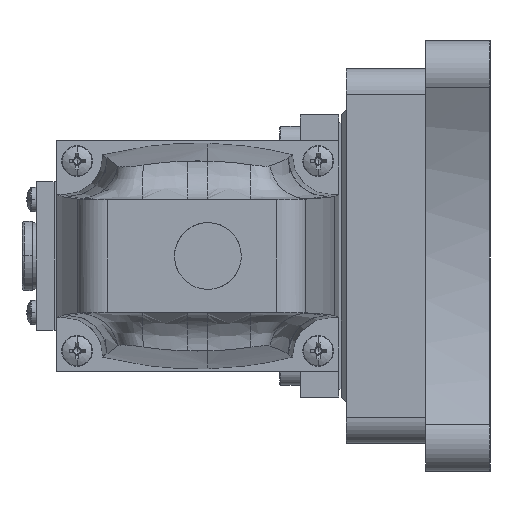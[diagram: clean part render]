
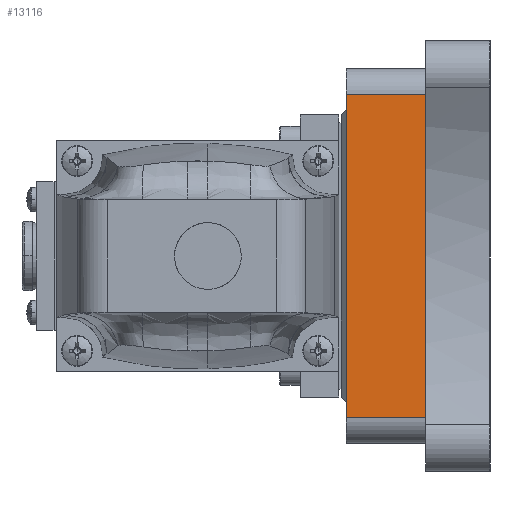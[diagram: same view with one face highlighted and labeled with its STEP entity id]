
A CAD part, left-side view. The second image highlights one B-rep face of the part: STEP entity #13116.
In plain terms, the highlighted planar face has unit normal (-1, 0, 0).
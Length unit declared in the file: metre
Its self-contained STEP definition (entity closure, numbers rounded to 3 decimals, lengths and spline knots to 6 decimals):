
#109 = VERTEX_POINT ( 'NONE', #7444 ) ;
#115 = VECTOR ( 'NONE', #377, 1. ) ;
#156 = VECTOR ( 'NONE', #1156, 1. ) ;
#163 = CARTESIAN_POINT ( 'NONE',  ( -0.094, -0.0175, -0.063 ) ) ;
#377 = DIRECTION ( 'NONE',  ( 0., -1., 0. ) ) ;
#605 = VERTEX_POINT ( 'NONE', #10907 ) ;
#1027 = CARTESIAN_POINT ( 'NONE',  ( -0.094, -0.002, 0. ) ) ;
#1156 = DIRECTION ( 'NONE',  ( 0., 0., -1. ) ) ;
#1414 = VECTOR ( 'NONE', #2996, 1. ) ;
#1805 = LINE ( 'NONE', #3290, #1414 ) ;
#2594 = CARTESIAN_POINT ( 'NONE',  ( -0.094, -0.033, 0. ) ) ;
#2996 = DIRECTION ( 'NONE',  ( 0., 1., 0. ) ) ;
#3290 = CARTESIAN_POINT ( 'NONE',  ( -0.094, -0.0175, 0.063 ) ) ;
#3404 = DIRECTION ( 'NONE',  ( 0., 0., -1. ) ) ;
#3424 = CARTESIAN_POINT ( 'NONE',  ( -0.094, -0.033, 0. ) ) ;
#3829 = ORIENTED_EDGE ( 'NONE', *, *, #9732, .T. ) ;
#4660 = EDGE_CURVE ( 'NONE', #15447, #8031, #1805, .T. ) ;
#5362 = ORIENTED_EDGE ( 'NONE', *, *, #5500, .F. ) ;
#5392 = CARTESIAN_POINT ( 'NONE',  ( -0.094, -0.033, 0.063 ) ) ;
#5426 = LINE ( 'NONE', #3424, #15005 ) ;
#5500 = EDGE_CURVE ( 'NONE', #15447, #13260, #8899, .T. ) ;
#5531 = ORIENTED_EDGE ( 'NONE', *, *, #5839, .F. ) ;
#5839 = EDGE_CURVE ( 'NONE', #13260, #605, #5426, .T. ) ;
#6702 = ORIENTED_EDGE ( 'NONE', *, *, #4660, .T. ) ;
#6895 = ORIENTED_EDGE ( 'NONE', *, *, #8370, .T. ) ;
#7444 = CARTESIAN_POINT ( 'NONE',  ( -0.094, -0.002, -0.063 ) ) ;
#8031 = VERTEX_POINT ( 'NONE', #9861 ) ;
#8370 = EDGE_CURVE ( 'NONE', #8031, #109, #9983, .T. ) ;
#8797 = CARTESIAN_POINT ( 'NONE',  ( -0.094, -0.033, 0. ) ) ;
#8856 = DIRECTION ( 'NONE',  ( 0., 0., -1. ) ) ;
#8899 = LINE ( 'NONE', #8797, #11414 ) ;
#9560 = LINE ( 'NONE', #163, #115 ) ;
#9732 = EDGE_CURVE ( 'NONE', #109, #605, #9560, .T. ) ;
#9861 = CARTESIAN_POINT ( 'NONE',  ( -0.094, -0.002, 0.063 ) ) ;
#9983 = LINE ( 'NONE', #1027, #156 ) ;
#10907 = CARTESIAN_POINT ( 'NONE',  ( -0.094, -0.033, -0.063 ) ) ;
#11038 = PLANE ( 'NONE',  #13026 ) ;
#11414 = VECTOR ( 'NONE', #8856, 1. ) ;
#11764 = CARTESIAN_POINT ( 'NONE',  ( -0.094, -0.033, 0.063 ) ) ;
#12118 = DIRECTION ( 'NONE',  ( 1., 0., 0. ) ) ;
#12264 = DIRECTION ( 'NONE',  ( 0., 0., -1. ) ) ;
#12699 = FACE_OUTER_BOUND ( 'NONE', #15710, .T. ) ;
#13026 = AXIS2_PLACEMENT_3D ( 'NONE', #11764, #12118, #12264 ) ;
#13116 = ADVANCED_FACE ( 'NONE', ( #12699 ), #11038, .F. ) ;
#13260 = VERTEX_POINT ( 'NONE', #2594 ) ;
#15005 = VECTOR ( 'NONE', #3404, 1. ) ;
#15447 = VERTEX_POINT ( 'NONE', #5392 ) ;
#15710 = EDGE_LOOP ( 'NONE', ( #3829, #5531, #5362, #6702, #6895 ) ) ;
